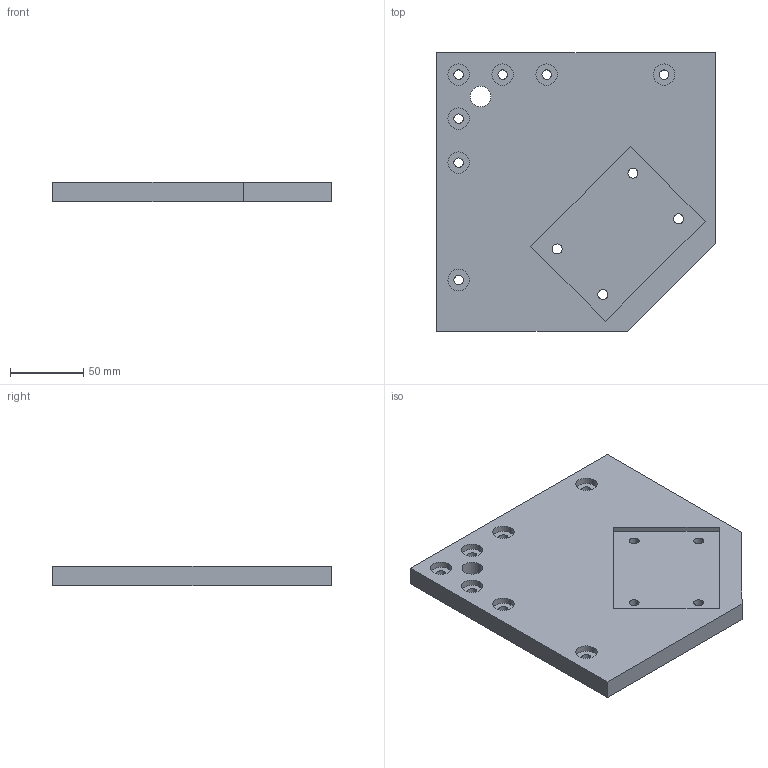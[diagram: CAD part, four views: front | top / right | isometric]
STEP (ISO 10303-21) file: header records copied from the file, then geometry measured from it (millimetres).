
FILE_DESCRIPTION (( 'STEP AP203' ), '1' );
FILE_NAME ('PF06190.STEP', '2024-02-19T03:13:07', ( '' ), ( '' ), 'SwSTEP 2.0', 'SolidWorks 2022', '' );
FILE_SCHEMA (( 'CONFIG_CONTROL_DESIGN' ));
Length unit declared in the file: millimetre
Products named in the file (1): PF06190
Bounding box: 190 x 190 x 13 mm (x, y, z)
Volume: 414627.9 mm3; surface area: 82024.5 mm2
Topology: 1 solids, 1 shells, 57 faces, 141 edges, 94 vertices
Faces by surface type: cylinder 38, plane 19
Entity records: 1856 total; most frequent: DIRECTION 333, CARTESIAN_POINT 293, ORIENTED_EDGE 282, EDGE_CURVE 141, AXIS2_PLACEMENT_3D 134, VERTEX_POINT 94, EDGE_LOOP 89, CIRCLE 76
